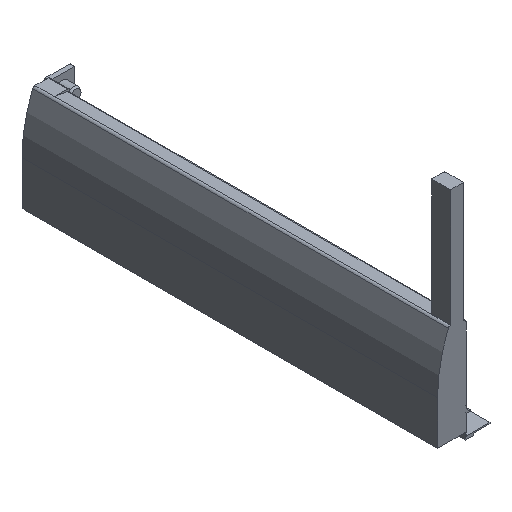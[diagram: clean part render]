
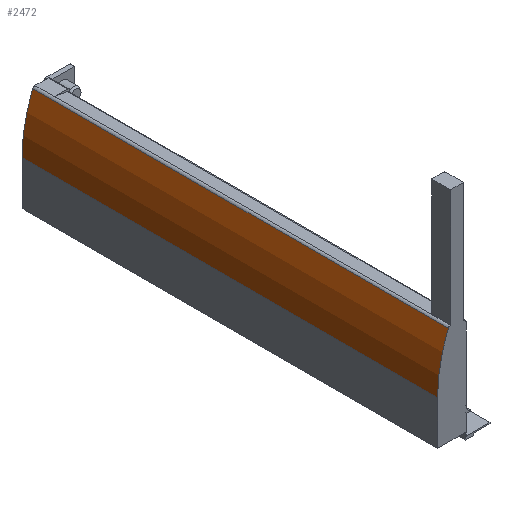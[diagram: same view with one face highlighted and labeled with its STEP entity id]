
A CAD part, isometric view. The second image highlights one B-rep face of the part: STEP entity #2472.
In plain terms, the highlighted cylindrical face has radius 120.6 mm (diameter 241.2 mm), a partial arc.
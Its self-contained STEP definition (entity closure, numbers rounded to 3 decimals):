
#95 = AXIS2_PLACEMENT_3D ( 'NONE', #902, #903, #904 ) ;
#126 = AXIS2_PLACEMENT_3D ( 'NONE', #763, #764, #765 ) ;
#145 = AXIS2_PLACEMENT_3D ( 'NONE', #560, #561, #562 ) ;
#286 = EDGE_CURVE ( 'NONE', #2542, #2711, #1689, .T. ) ;
#297 = EDGE_CURVE ( 'NONE', #2613, #2711, #1671, .T. ) ;
#365 = EDGE_CURVE ( 'NONE', #2782, #2542, #1393, .T. ) ;
#379 = EDGE_CURVE ( 'NONE', #2613, #2782, #1420, .T. ) ;
#560 = CARTESIAN_POINT ( 'NONE',  ( 118.3, 0., 23.168 ) ) ;
#561 = DIRECTION ( 'NONE',  ( 0., 1., 0. ) ) ;
#562 = DIRECTION ( 'NONE',  ( -1., 0., 0. ) ) ;
#585 = CARTESIAN_POINT ( 'NONE',  ( 6.648, 394.049, 68.756 ) ) ;
#586 = DIRECTION ( 'NONE',  ( 0., -1., 0. ) ) ;
#734 = CARTESIAN_POINT ( 'NONE',  ( -2.3, 394.049, 23.168 ) ) ;
#735 = DIRECTION ( 'NONE',  ( 0., -1., 0. ) ) ;
#763 = CARTESIAN_POINT ( 'NONE',  ( 118.3, 347., 23.168 ) ) ;
#764 = DIRECTION ( 'NONE',  ( 0., -1., 0. ) ) ;
#765 = DIRECTION ( 'NONE',  ( -1., 0., 0. ) ) ;
#902 = CARTESIAN_POINT ( 'NONE',  ( 118.3, 394.049, 23.168 ) ) ;
#903 = DIRECTION ( 'NONE',  ( 0., -1., 0. ) ) ;
#904 = DIRECTION ( 'NONE',  ( -1., 0., 0. ) ) ;
#1170 = CARTESIAN_POINT ( 'NONE',  ( -2.3, 0., 23.168 ) ) ;
#1187 = CARTESIAN_POINT ( 'NONE',  ( 6.648, 347., 68.756 ) ) ;
#1239 = CARTESIAN_POINT ( 'NONE',  ( 6.648, 0., 68.756 ) ) ;
#1310 = CARTESIAN_POINT ( 'NONE',  ( -2.3, 347., 23.168 ) ) ;
#1393 = LINE ( 'NONE', #734, #1394 ) ;
#1394 = VECTOR ( 'NONE', #735, 1000. ) ;
#1420 = CIRCLE ( 'NONE', #126, 120.6 ) ;
#1497 = FACE_OUTER_BOUND ( 'NONE', #1955, .T. ) ;
#1498 = CYLINDRICAL_SURFACE ( 'NONE', #95, 120.6 ) ;
#1669 = VECTOR ( 'NONE', #586, 1000. ) ;
#1671 = LINE ( 'NONE', #585, #1669 ) ;
#1689 = CIRCLE ( 'NONE', #145, 120.6 ) ;
#1955 = EDGE_LOOP ( 'NONE', ( #2378, #2377, #2376, #2375 ) ) ;
#2375 = ORIENTED_EDGE ( 'NONE', *, *, #365, .T. ) ;
#2376 = ORIENTED_EDGE ( 'NONE', *, *, #379, .T. ) ;
#2377 = ORIENTED_EDGE ( 'NONE', *, *, #297, .F. ) ;
#2378 = ORIENTED_EDGE ( 'NONE', *, *, #286, .T. ) ;
#2472 = ADVANCED_FACE ( 'NONE', ( #1497 ), #1498, .T. ) ;
#2542 = VERTEX_POINT ( 'NONE', #1170 ) ;
#2613 = VERTEX_POINT ( 'NONE', #1187 ) ;
#2711 = VERTEX_POINT ( 'NONE', #1239 ) ;
#2782 = VERTEX_POINT ( 'NONE', #1310 ) ;
